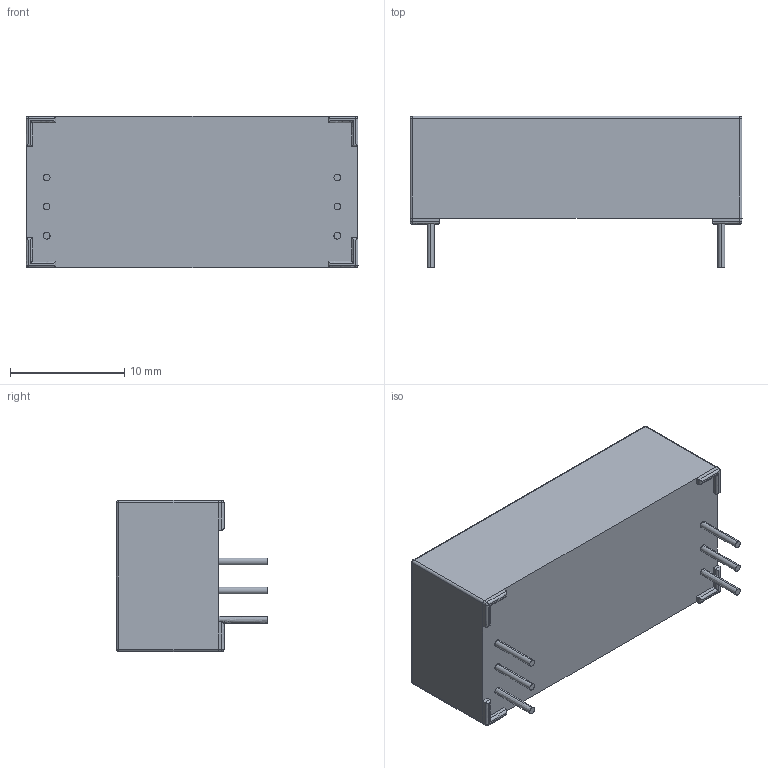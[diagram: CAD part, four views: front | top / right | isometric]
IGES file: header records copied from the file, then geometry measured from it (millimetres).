
Start section: SolidWorks IGES file using analytic representation for surfaces
Global section: file name: T:\Relays in Solidworks\Batch 3\88-2-A.IGS; native system: SolidWorks 2009; preprocessor: SolidWorks 2009; author: alex.leming; date: 100629.143743; units: millimetre
Bounding box: 29 x 13.2 x 13.2 mm (x, y, z)
Surface area: 1571.2 mm2 (no closed solid volume)
Topology: 0 solids, 0 shells, 759 faces, 7739 edges, 7734 vertices
Faces by surface type: bspline 703, revolution 56
